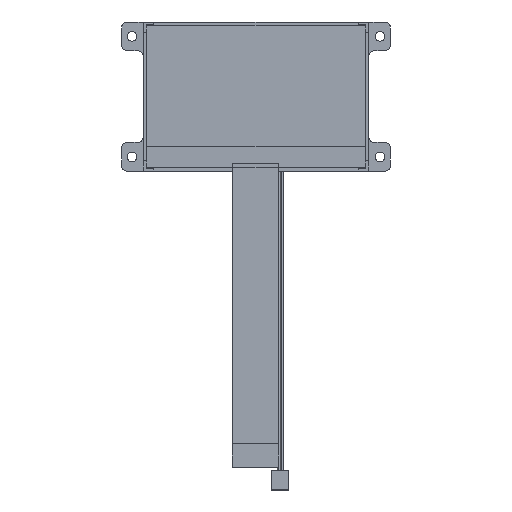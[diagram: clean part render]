
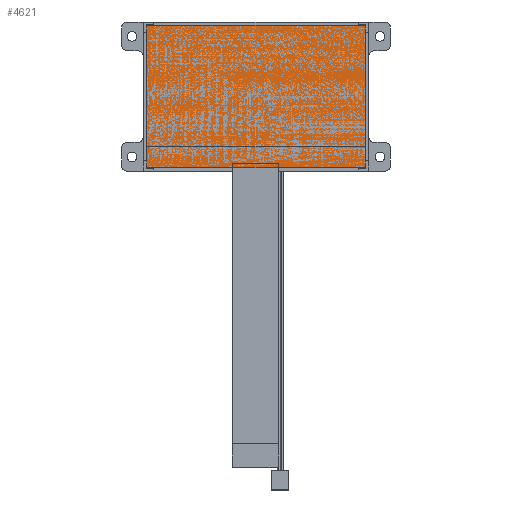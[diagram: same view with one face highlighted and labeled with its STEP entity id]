
A CAD part, top view. The second image highlights one B-rep face of the part: STEP entity #4621.
In plain terms, the highlighted planar face has unit normal (0, 0, 1).
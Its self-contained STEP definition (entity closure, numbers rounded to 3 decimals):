
#85 = CARTESIAN_POINT ( 'NONE',  ( 36.5, 23.75, 5.9 ) ) ;
#170 = EDGE_CURVE ( 'NONE', #4636, #2005, #568, .T. ) ;
#218 = EDGE_CURVE ( 'NONE', #2005, #3604, #2524, .T. ) ;
#231 = CARTESIAN_POINT ( 'NONE',  ( -36.5, -23.75, 5.9 ) ) ;
#261 = DIRECTION ( 'NONE',  ( 0., 0., 1. ) ) ;
#568 = LINE ( 'NONE', #3805, #1516 ) ;
#850 = CARTESIAN_POINT ( 'NONE',  ( -36.5, 23.75, 5.9 ) ) ;
#908 = DIRECTION ( 'NONE',  ( 1., 0., 0. ) ) ;
#1109 = ORIENTED_EDGE ( 'NONE', *, *, #3314, .T. ) ;
#1368 = LINE ( 'NONE', #4623, #3802 ) ;
#1483 = CARTESIAN_POINT ( 'NONE',  ( 36.5, 23.75, 5.9 ) ) ;
#1516 = VECTOR ( 'NONE', #3465, 1000. ) ;
#1609 = ORIENTED_EDGE ( 'NONE', *, *, #170, .T. ) ;
#1750 = PLANE ( 'NONE',  #3502 ) ;
#1818 = ORIENTED_EDGE ( 'NONE', *, *, #3388, .T. ) ;
#1832 = DIRECTION ( 'NONE',  ( 0., -1., 0. ) ) ;
#2005 = VERTEX_POINT ( 'NONE', #85 ) ;
#2339 = DIRECTION ( 'NONE',  ( 1., 0., 0. ) ) ;
#2524 = LINE ( 'NONE', #1483, #4450 ) ;
#2554 = LINE ( 'NONE', #3955, #4472 ) ;
#2774 = CARTESIAN_POINT ( 'NONE',  ( 36.5, -23.75, 5.9 ) ) ;
#2890 = EDGE_LOOP ( 'NONE', ( #1109, #1818, #1609, #4574 ) ) ;
#3314 = EDGE_CURVE ( 'NONE', #3604, #4561, #1368, .T. ) ;
#3388 = EDGE_CURVE ( 'NONE', #4561, #4636, #2554, .T. ) ;
#3465 = DIRECTION ( 'NONE',  ( 0., 1., 0. ) ) ;
#3502 = AXIS2_PLACEMENT_3D ( 'NONE', #4030, #261, #2339 ) ;
#3604 = VERTEX_POINT ( 'NONE', #850 ) ;
#3772 = DIRECTION ( 'NONE',  ( -1., 0., 0. ) ) ;
#3802 = VECTOR ( 'NONE', #1832, 1000. ) ;
#3805 = CARTESIAN_POINT ( 'NONE',  ( 36.5, -23.75, 5.9 ) ) ;
#3955 = CARTESIAN_POINT ( 'NONE',  ( 36.5, -23.75, 5.9 ) ) ;
#4030 = CARTESIAN_POINT ( 'NONE',  ( 0., 0., 5.9 ) ) ;
#4450 = VECTOR ( 'NONE', #3772, 1000. ) ;
#4472 = VECTOR ( 'NONE', #908, 1000. ) ;
#4505 = FACE_OUTER_BOUND ( 'NONE', #2890, .T. ) ;
#4561 = VERTEX_POINT ( 'NONE', #231 ) ;
#4574 = ORIENTED_EDGE ( 'NONE', *, *, #218, .T. ) ;
#4621 = ADVANCED_FACE ( 'NONE', ( #4505 ), #1750, .T. ) ;
#4623 = CARTESIAN_POINT ( 'NONE',  ( -36.5, -23.75, 5.9 ) ) ;
#4636 = VERTEX_POINT ( 'NONE', #2774 ) ;
